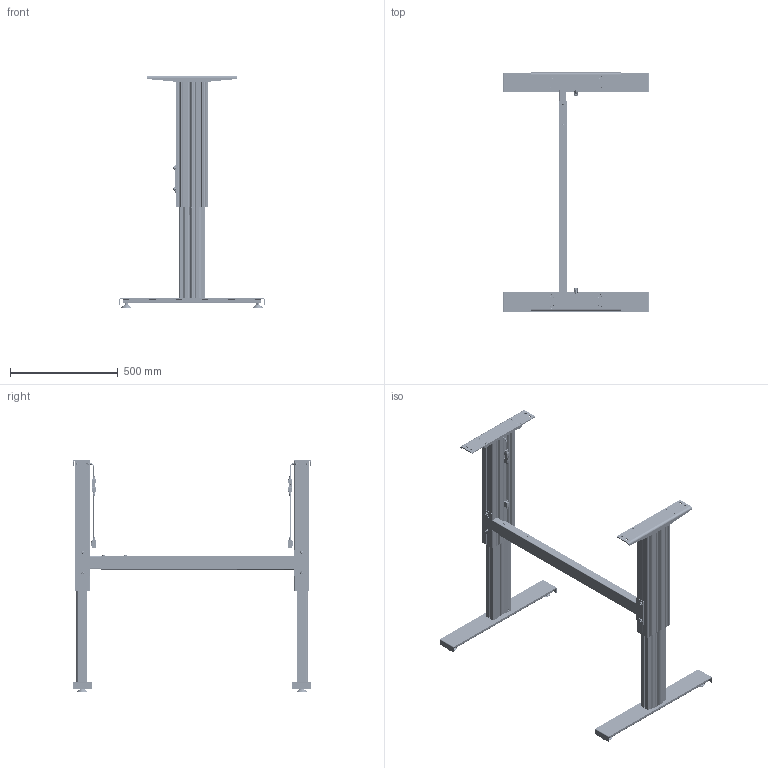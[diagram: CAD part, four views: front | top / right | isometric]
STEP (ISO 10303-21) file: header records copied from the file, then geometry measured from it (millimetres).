
FILE_DESCRIPTION(/* description */ ('Unknown'),/* implementation_level */ '2;1');
FILE_NAME(/* name */ 'Untergestell SM-2 1340 970-1620 XX XX_00-Ausgefahren',/* time_stamp */ '2022-01-26T14:58:40+01:00',/* author */ ('Unknown'),/* organization */ ('Unknown'),/* preprocessor_version */ 'ST-DEVELOPER v18.1',/* originating_system */ 'Solid Edge',/* authorisation */ 'Unknown');
FILE_SCHEMA (('AUTOMOTIVE_DESIGN {1 0 10303 214 3 1 1}'));
Products named in the file (38): Untergestell SM-2 1340 970-1620 XX XX; 902.01024_oa_0; 126.00138; 119.00312; 119.00311; 142.00166; 124.00201_oa_1; 142.00241; 110.00113_oa_2; 115.00200_oa_3; 124.00151; Kabel Motor Sx; 142.00343; 902.01024_oa_4; 124.00201_oa_5; 110.00113_oa_6; 115.00200_oa_7; 127.00635; 060339~2; 060340~3; Sechskantmutter M6 DIN 934; Scheibe Ø6,4 DIN 125; Halbrundkopfschraube mit Innensechskant M8x12 ISO 7380-1; Scheibe Ø8,4 DIN 125; Nutenstein M8_montiert; Halbrundkopfschraube mit Innensechskant und Bund M6x16 ISO 7380-2; 127.00545; 127.00548; 127.00566; 127.00567; 127.00548_461_469_Kehlnaht 1_oa_8; 113.00006; 113.00006-ohne Mutter; Mutter M10; 115.00165; 127.00223; 142.00279; 142.00068
Assembly tree (82 placements, depth 4):
  Untergestell SM-2 1340 970-1620 XX XX
    902.01024_oa_0
      126.00138
      119.00312
      119.00311
      142.00166  x4
      124.00201_oa_1
      142.00241  x2
      110.00113_oa_2
      115.00200_oa_3
      124.00151
      Kabel Motor Sx
      142.00343  x2
    902.01024_oa_4
      126.00138
      119.00312
      119.00311
      142.00166  x4
      124.00201_oa_5
      142.00241  x2
      110.00113_oa_6
      115.00200_oa_7
      124.00151
      Kabel Motor Sx
      142.00343  x2
    127.00635
      060339~2
      060340~3
      Sechskantmutter M6 DIN 934  x4
      Scheibe Ø6,4 DIN 125  x4
      Halbrundkopfschraube mit Innensechskant M8x12 ISO 7380-1  x4
      Scheibe Ø8,4 DIN 125  x4
      Nutenstein M8_montiert  x4
      Halbrundkopfschraube mit Innensechskant und Bund M6x16 ISO 7380-2  x4
    127.00545  x2
      127.00548
        127.00566
        127.00567
        127.00548_461_469_Kehlnaht 1_oa_8
      113.00006
        113.00006-ohne Mutter
        Mutter M10
    115.00165  x2
      127.00223
      142.00279
      142.00068
Bounding box: 680 x 1110 x 1080 mm (x, y, z)
Volume: 7463168.3 mm3; surface area: 3893944.6 mm2
Topology: 106 solids, 106 shells, 8282 faces, 22827 edges, 15025 vertices
Faces by surface type: plane 4642, cylinder 2872, torus 290, cone 244, bspline 218, sphere 16
Full cylindrical faces by diameter (mm): 1.5 x12, 1.82 x12, 2.459 x2, 2.7 x12, 3.242 x4, 3.4 x2, 4 x8, 5 x10, 5.5 x8, 6 x14, 6.4 x4, 6.647 x12, 7 x20, 8 x16, 8.376 x10, 8.5 x28, 8.7 x8, 9 x8, 9.5 x4, 10 x4, 12 x4, 13.6 x4, 14 x4, 15 x4, 16.8 x4, 19 x4, 25 x12, 29 x4, 30 x4, 35 x4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
Entity records: 146329 total; most frequent: CARTESIAN_POINT 26865, ORIENTED_EDGE 20926, DIRECTION 20512, EDGE_CURVE 10463, VERTEX_POINT 6998, AXIS2_PLACEMENT_3D 6914, LINE 6684, VECTOR 6684
